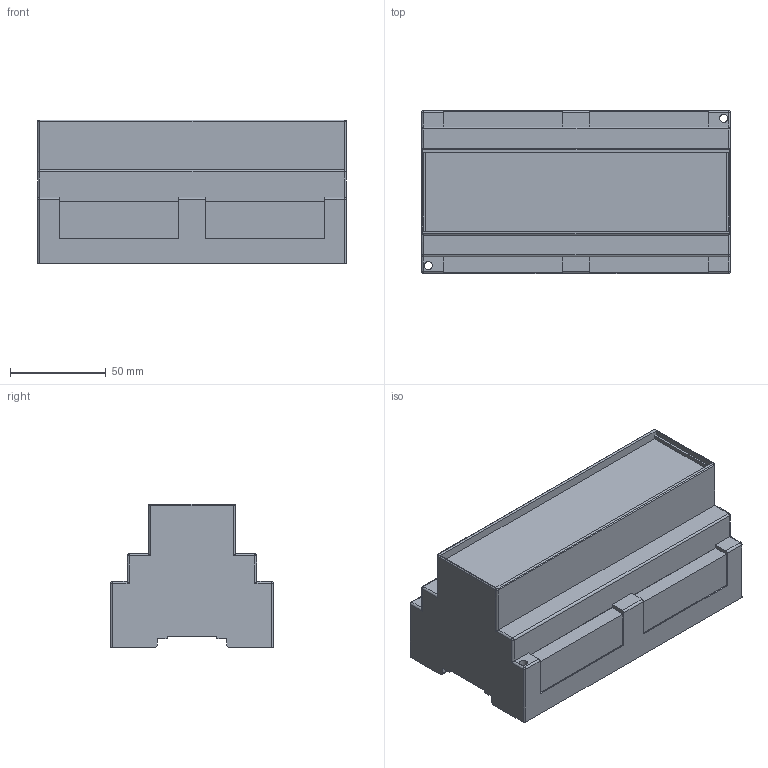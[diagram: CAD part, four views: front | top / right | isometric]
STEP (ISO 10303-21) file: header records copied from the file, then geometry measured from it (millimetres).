
FILE_DESCRIPTION(/* description */ (''),/* implementation_level */ '2;1');
FILE_NAME(/* name */ 'X:\Digidirect\CAD\Helmut Mess 03 2015\X480\X480.stp',/* time_stamp */ '2015-03-13T06:46:25+01:00',/* author */ ('m.jost'),/* organization */ (''),/* preprocessor_version */ 'ST-DEVELOPER v15.6',/* originating_system */ 'Autodesk Inventor 2015',/* authorisation */ '');
FILE_SCHEMA (('AUTOMOTIVE_DESIGN { 1 0 10303 214 3 1 1 }'));
Length unit declared in the file: millimetre
Products named in the file (2): Baugruppe4_Substitute_1; Baugruppe4
Assembly tree (1 placements, depth 2):
  Baugruppe4
    Baugruppe4_Substitute_1
Bounding box: 161 x 85 x 75 mm (x, y, z)
Surface area: 95919.7 mm2 (no closed solid volume)
Topology: 0 solids, 5 shells, 152 faces, 508 edges, 338 vertices
Faces by surface type: plane 104, cylinder 36, sphere 8, bspline 4
Full cylindrical faces by diameter (mm): 4.3 x2
Entity records: 5530 total; most frequent: CARTESIAN_POINT 1023, DIRECTION 872, ORIENTED_EDGE 834, EDGE_CURVE 498, LINE 426, VECTOR 426, VERTEX_POINT 338, AXIS2_PLACEMENT_3D 223
